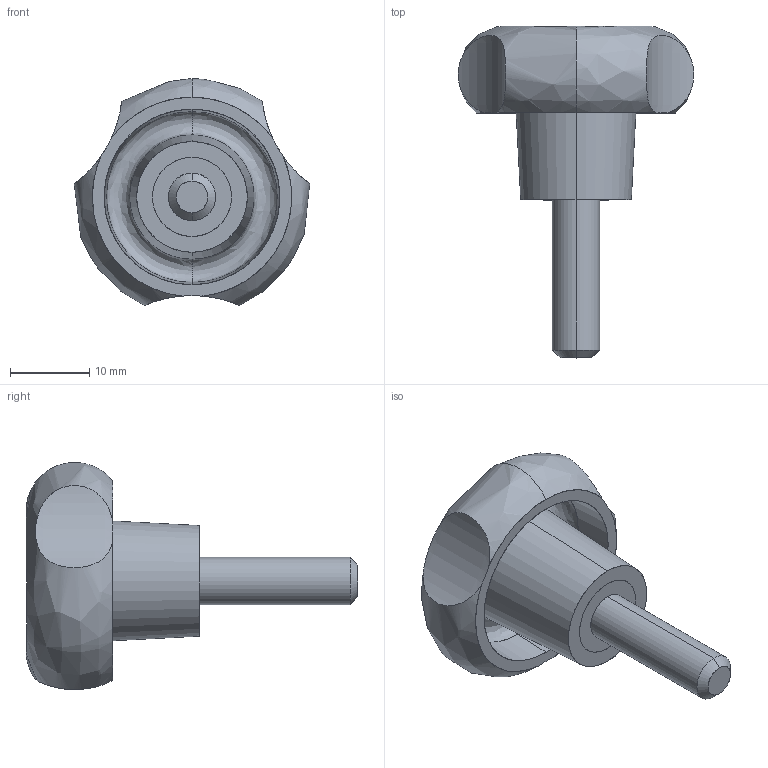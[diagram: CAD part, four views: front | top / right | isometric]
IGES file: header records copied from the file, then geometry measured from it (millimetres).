
Start section: SolidWorks IGES file using analytic representation for surfaces
Global section: file name: C:\Documents and Settings\IanO.IANOHOME\My Documents\Wix and Auto CAD Work\CAD Models\Parametric Models\Wix Models\7059\7059_IGES\7059.W061.igs; native system: SolidWorks 2009; preprocessor: SolidWorks 2009; author: IanO; date: 100907.123621; units: millimetre
Bounding box: 29.81 x 42 x 28.74 mm (x, y, z)
Surface area: 4625.5 mm2 (no closed solid volume)
Topology: 0 solids, 0 shells, 26 faces, 610 edges, 610 vertices
Faces by surface type: revolution 15, bspline 11
